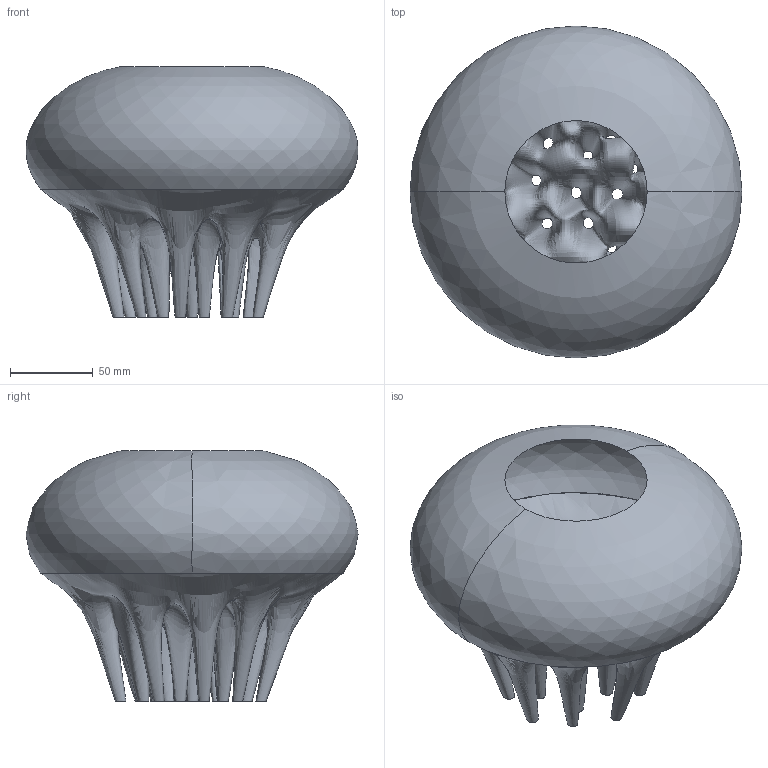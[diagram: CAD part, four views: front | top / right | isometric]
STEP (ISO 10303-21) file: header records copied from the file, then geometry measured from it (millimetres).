
FILE_DESCRIPTION(/* description */ (''),/* implementation_level */ '2;1');
FILE_NAME(/* name */ 'Medusa Vase Mini',/* time_stamp */ '2021-12-03T09:45:22+01:00',/* author */ (''),/* organization */ (''),/* preprocessor_version */ 'ST-DEVELOPER v15',/* originating_system */ '',/* authorisation */ '');
FILE_SCHEMA (('AUTOMOTIVE_DESIGN'));
Length unit declared in the file: millimetre
Products named in the file (1): Document
Bounding box: 199.97 x 200 x 150.93 mm (x, y, z)
Surface area: 115384.2 mm2 (no closed solid volume)
Topology: 0 solids, 2 shells, 3 faces, 33 edges, 31 vertices
Faces by surface type: bspline 3
Entity records: 2423 total; most frequent: CARTESIAN_POINT 2227, ORIENTED_EDGE 35, EDGE_CURVE 33, VERTEX_POINT 31, B_SPLINE_CURVE_WITH_KNOTS 27, EDGE_LOOP 19, FACE_BOUND 16, DIRECTION 4
